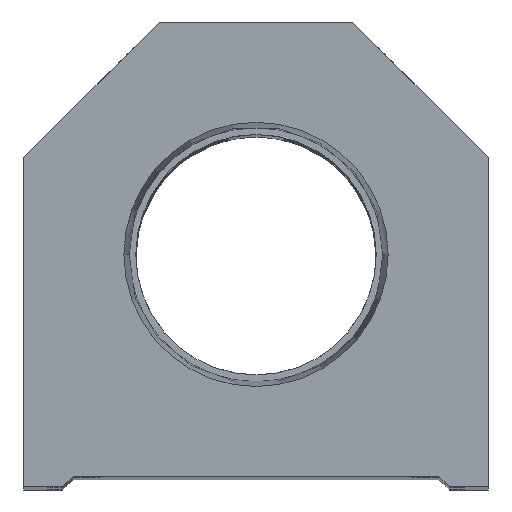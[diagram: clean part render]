
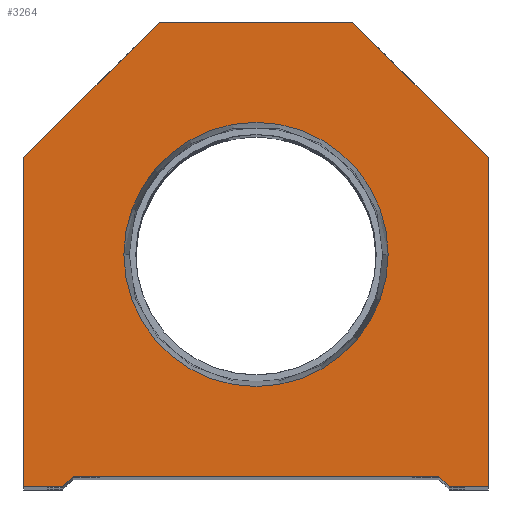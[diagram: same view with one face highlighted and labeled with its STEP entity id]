
A CAD part, top view. The second image highlights one B-rep face of the part: STEP entity #3264.
In plain terms, the highlighted planar face has unit normal (0, 0, 1).
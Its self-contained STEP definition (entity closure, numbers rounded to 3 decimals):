
#82 = AXIS2_PLACEMENT_3D ( 'NONE', #12558, #1587, #501 ) ;
#272 = CARTESIAN_POINT ( 'NONE',  ( -12.647, 22.25, 0. ) ) ;
#484 = DIRECTION ( 'NONE',  ( 1., 0., 0. ) ) ;
#497 = VERTEX_POINT ( 'NONE', #4941 ) ;
#501 = DIRECTION ( 'NONE',  ( 1., 0., 0. ) ) ;
#580 = EDGE_CURVE ( 'NONE', #6570, #16859, #14774, .T. ) ;
#635 = EDGE_CURVE ( 'NONE', #10023, #5162, #9869, .T. ) ;
#651 = EDGE_CURVE ( 'NONE', #497, #7927, #3701, .T. ) ;
#671 = EDGE_LOOP ( 'NONE', ( #13839, #13950 ) ) ;
#1179 = EDGE_CURVE ( 'NONE', #1873, #2844, #12563, .T. ) ;
#1441 = ORIENTED_EDGE ( 'NONE', *, *, #11023, .T. ) ;
#1587 = DIRECTION ( 'NONE',  ( 0., 0., 1. ) ) ;
#1604 = ORIENTED_EDGE ( 'NONE', *, *, #10344, .T. ) ;
#1838 = FACE_BOUND ( 'NONE', #671, .T. ) ;
#1873 = VERTEX_POINT ( 'NONE', #3261 ) ;
#2058 = ORIENTED_EDGE ( 'NONE', *, *, #15801, .T. ) ;
#2198 = DIRECTION ( 'NONE',  ( -0.707, -0.707, 0. ) ) ;
#2270 = AXIS2_PLACEMENT_3D ( 'NONE', #8608, #15214, #3338 ) ;
#2356 = LINE ( 'NONE', #7709, #9312 ) ;
#2493 = VECTOR ( 'NONE', #11416, 1000. ) ;
#2844 = VERTEX_POINT ( 'NONE', #6781 ) ;
#3017 = DIRECTION ( 'NONE',  ( 0.707, 0.707, 0. ) ) ;
#3261 = CARTESIAN_POINT ( 'NONE',  ( 22.25, 31.5, 0. ) ) ;
#3264 = ADVANCED_FACE ( 'NONE', ( #1838, #7097 ), #12544, .T. ) ;
#3338 = DIRECTION ( 'NONE',  ( 1., 0., 0. ) ) ;
#3487 = VERTEX_POINT ( 'NONE', #5790 ) ;
#3701 = LINE ( 'NONE', #9051, #14136 ) ;
#4095 = LINE ( 'NONE', #14999, #13596 ) ;
#4339 = ORIENTED_EDGE ( 'NONE', *, *, #580, .T. ) ;
#4690 = CARTESIAN_POINT ( 'NONE',  ( -22.25, 31.5, 0. ) ) ;
#4829 = VECTOR ( 'NONE', #6928, 1000. ) ;
#4891 = ORIENTED_EDGE ( 'NONE', *, *, #10665, .T. ) ;
#4941 = CARTESIAN_POINT ( 'NONE',  ( -17.5, 1., 0. ) ) ;
#4949 = CARTESIAN_POINT ( 'NONE',  ( 9.25, 44.5, 0. ) ) ;
#5162 = VERTEX_POINT ( 'NONE', #13945 ) ;
#5210 = VECTOR ( 'NONE', #13983, 1000. ) ;
#5769 = CARTESIAN_POINT ( 'NONE',  ( -9.25, 44.5, 0. ) ) ;
#5790 = CARTESIAN_POINT ( 'NONE',  ( 22.25, 0., 0. ) ) ;
#5835 = LINE ( 'NONE', #16735, #9010 ) ;
#6069 = ORIENTED_EDGE ( 'NONE', *, *, #13946, .T. ) ;
#6570 = VERTEX_POINT ( 'NONE', #5769 ) ;
#6653 = LINE ( 'NONE', #4949, #15470 ) ;
#6718 = VECTOR ( 'NONE', #2198, 1000. ) ;
#6781 = CARTESIAN_POINT ( 'NONE',  ( 9.25, 44.5, 0. ) ) ;
#6928 = DIRECTION ( 'NONE',  ( 0., -1., 0. ) ) ;
#7022 = CARTESIAN_POINT ( 'NONE',  ( -22.25, 0., 0. ) ) ;
#7097 = FACE_OUTER_BOUND ( 'NONE', #9167, .T. ) ;
#7169 = ORIENTED_EDGE ( 'NONE', *, *, #1179, .T. ) ;
#7207 = CARTESIAN_POINT ( 'NONE',  ( 22.25, 0., 0. ) ) ;
#7284 = EDGE_CURVE ( 'NONE', #2844, #6570, #6653, .T. ) ;
#7383 = LINE ( 'NONE', #7207, #2493 ) ;
#7631 = DIRECTION ( 'NONE',  ( 0., 0., 1. ) ) ;
#7709 = CARTESIAN_POINT ( 'NONE',  ( 9.25, 9.25, 0. ) ) ;
#7779 = CIRCLE ( 'NONE', #82, 12.647 ) ;
#7927 = VERTEX_POINT ( 'NONE', #14965 ) ;
#8113 = EDGE_CURVE ( 'NONE', #5162, #10023, #7779, .T. ) ;
#8529 = LINE ( 'NONE', #7022, #4829 ) ;
#8601 = CARTESIAN_POINT ( 'NONE',  ( -22.25, 0., 0. ) ) ;
#8608 = CARTESIAN_POINT ( 'NONE',  ( 0., 0., 0. ) ) ;
#9010 = VECTOR ( 'NONE', #484, 1000. ) ;
#9051 = CARTESIAN_POINT ( 'NONE',  ( -17.5, 1., 0. ) ) ;
#9133 = DIRECTION ( 'NONE',  ( 0.707, -0.707, 0. ) ) ;
#9167 = EDGE_LOOP ( 'NONE', ( #2058, #4891, #11434, #17053, #1604, #1441, #7169, #14107, #4339, #6069 ) ) ;
#9266 = VERTEX_POINT ( 'NONE', #14725 ) ;
#9312 = VECTOR ( 'NONE', #9133, 1000. ) ;
#9323 = CARTESIAN_POINT ( 'NONE',  ( -22.25, 31.5, 0. ) ) ;
#9765 = VERTEX_POINT ( 'NONE', #8601 ) ;
#9869 = CIRCLE ( 'NONE', #11595, 12.647 ) ;
#9896 = CARTESIAN_POINT ( 'NONE',  ( -17.5, 0., 0. ) ) ;
#10023 = VERTEX_POINT ( 'NONE', #272 ) ;
#10344 = EDGE_CURVE ( 'NONE', #9266, #3487, #5835, .T. ) ;
#10579 = DIRECTION ( 'NONE',  ( 1., 0., 0. ) ) ;
#10665 = EDGE_CURVE ( 'NONE', #14090, #497, #4095, .T. ) ;
#10712 = CARTESIAN_POINT ( 'NONE',  ( 22.25, 31.5, 0. ) ) ;
#11023 = EDGE_CURVE ( 'NONE', #3487, #1873, #7383, .T. ) ;
#11416 = DIRECTION ( 'NONE',  ( 0., 1., 0. ) ) ;
#11434 = ORIENTED_EDGE ( 'NONE', *, *, #651, .T. ) ;
#11595 = AXIS2_PLACEMENT_3D ( 'NONE', #13254, #7631, #10579 ) ;
#12102 = EDGE_CURVE ( 'NONE', #7927, #9266, #2356, .T. ) ;
#12454 = VECTOR ( 'NONE', #14822, 1000. ) ;
#12544 = PLANE ( 'NONE',  #2270 ) ;
#12558 = CARTESIAN_POINT ( 'NONE',  ( 0., 22.25, 0. ) ) ;
#12563 = LINE ( 'NONE', #10712, #12454 ) ;
#13254 = CARTESIAN_POINT ( 'NONE',  ( 0., 22.25, 0. ) ) ;
#13596 = VECTOR ( 'NONE', #3017, 1000. ) ;
#13839 = ORIENTED_EDGE ( 'NONE', *, *, #8113, .F. ) ;
#13945 = CARTESIAN_POINT ( 'NONE',  ( 12.647, 22.25, 0. ) ) ;
#13946 = EDGE_CURVE ( 'NONE', #16859, #9765, #8529, .T. ) ;
#13950 = ORIENTED_EDGE ( 'NONE', *, *, #635, .F. ) ;
#13983 = DIRECTION ( 'NONE',  ( 1., 0., 0. ) ) ;
#14090 = VERTEX_POINT ( 'NONE', #15763 ) ;
#14107 = ORIENTED_EDGE ( 'NONE', *, *, #7284, .T. ) ;
#14136 = VECTOR ( 'NONE', #14507, 1000. ) ;
#14507 = DIRECTION ( 'NONE',  ( 1., 0., 0. ) ) ;
#14686 = DIRECTION ( 'NONE',  ( -1., 0., 0. ) ) ;
#14725 = CARTESIAN_POINT ( 'NONE',  ( 18.5, 0., 0. ) ) ;
#14774 = LINE ( 'NONE', #9323, #6718 ) ;
#14822 = DIRECTION ( 'NONE',  ( -0.707, 0.707, 0. ) ) ;
#14965 = CARTESIAN_POINT ( 'NONE',  ( 17.5, 1., 0. ) ) ;
#14999 = CARTESIAN_POINT ( 'NONE',  ( -9.25, 9.25, 0. ) ) ;
#15214 = DIRECTION ( 'NONE',  ( 0., 0., 1. ) ) ;
#15470 = VECTOR ( 'NONE', #14686, 1000. ) ;
#15763 = CARTESIAN_POINT ( 'NONE',  ( -18.5, 0., 0. ) ) ;
#15801 = EDGE_CURVE ( 'NONE', #9765, #14090, #16669, .T. ) ;
#16669 = LINE ( 'NONE', #9896, #5210 ) ;
#16735 = CARTESIAN_POINT ( 'NONE',  ( 17.5, 0., 0. ) ) ;
#16859 = VERTEX_POINT ( 'NONE', #4690 ) ;
#17053 = ORIENTED_EDGE ( 'NONE', *, *, #12102, .T. ) ;
